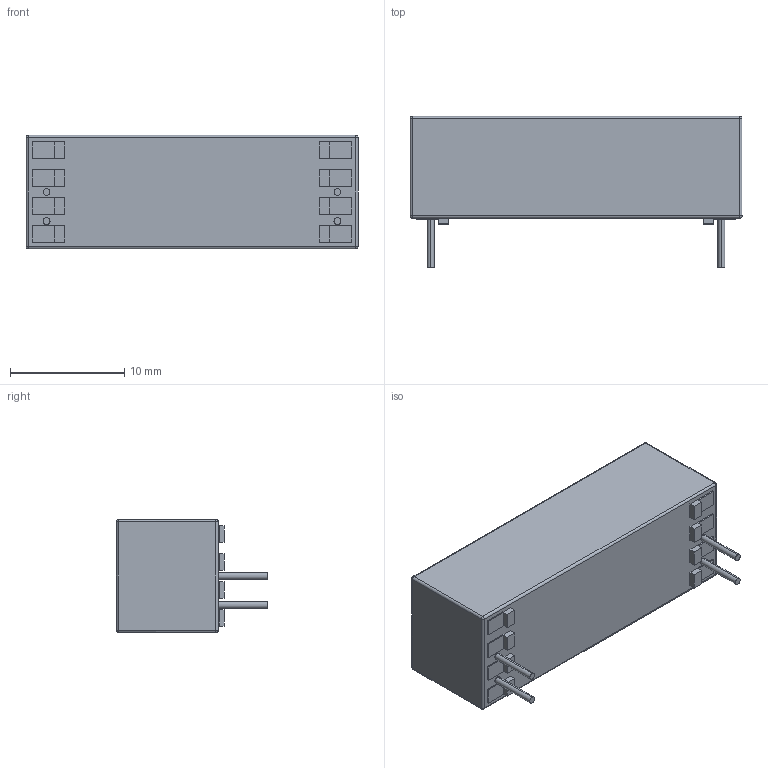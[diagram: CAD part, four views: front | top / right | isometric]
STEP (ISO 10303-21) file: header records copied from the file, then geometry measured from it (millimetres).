
FILE_DESCRIPTION (( 'STEP AP203' ), '1' );
FILE_NAME ('80-1-A.STEP', '2010-06-29T15:13:45', ( ' ' ), ( '' ), 'SwSTEP 2.0', 'SolidWorks 2009', '' );
FILE_SCHEMA (( 'CONFIG_CONTROL_DESIGN' ));
Products named in the file (1): 80-1-A
Bounding box: 29 x 13.2 x 9.9 mm (x, y, z)
Volume: 2561.8 mm3; surface area: 1303.5 mm2
Topology: 1 solids, 1 shells, 724 faces, 1903 edges, 1252 vertices
Faces by surface type: plane 457, bspline 233, cylinder 24, sphere 10
Entity records: 34608 total; most frequent: CARTESIAN_POINT 18257, ORIENTED_EDGE 3790, DIRECTION 2463, EDGE_CURVE 1895, VECTOR 1379, LINE 1379, VERTEX_POINT 1252, EDGE_LOOP 803
